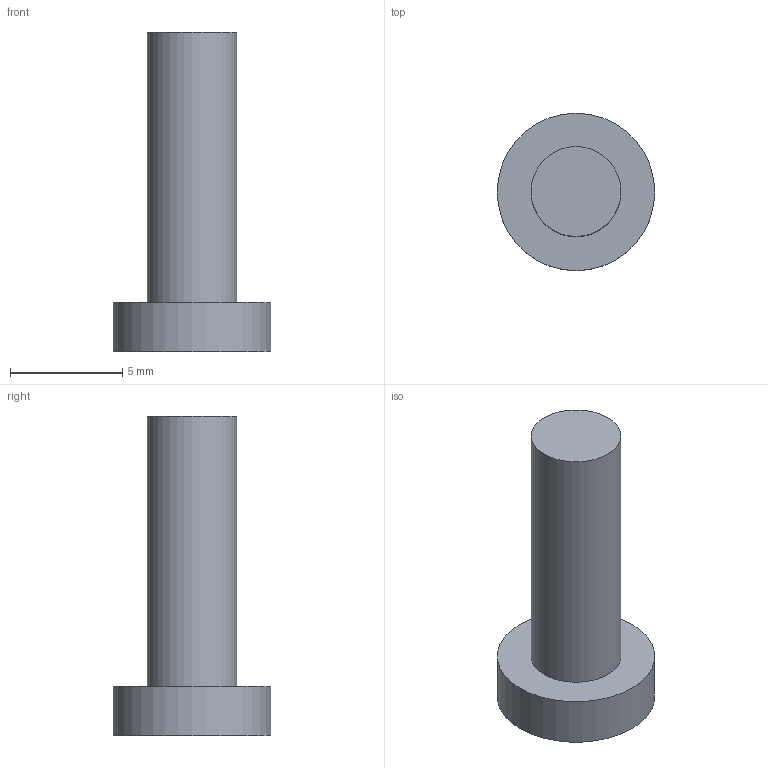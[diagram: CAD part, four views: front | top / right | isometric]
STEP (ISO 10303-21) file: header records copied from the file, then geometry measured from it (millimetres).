
FILE_DESCRIPTION(('FreeCAD Model'),'2;1');
FILE_NAME('Open CASCADE Shape Model','2026-10-30T14:44:59',('FreeCAD'),( 'FreeCAD'),'Open CASCADE STEP processor 7.8','FreeCAD','Unknown');
FILE_SCHEMA(('AUTOMOTIVE_DESIGN { 1 0 10303 214 1 1 1 1 }'));
Length unit declared in the file: millimetre
Products named in the file (1): Open CASCADE STEP translator 7.8 5
Bounding box: 7 x 7 x 14.2 mm (x, y, z)
Volume: 229.8 mm3; surface area: 286.3 mm2
Topology: 1 solids, 1 shells, 12 faces, 24 edges, 16 vertices
Faces by surface type: plane 10, cylinder 2
Full cylindrical faces by diameter (mm): 4 x1, 7 x1
Entity records: 322 total; most frequent: DIRECTION 54, CARTESIAN_POINT 53, ORIENTED_EDGE 48, EDGE_CURVE 24, LINE 20, VECTOR 20, AXIS2_PLACEMENT_3D 17, VERTEX_POINT 16
